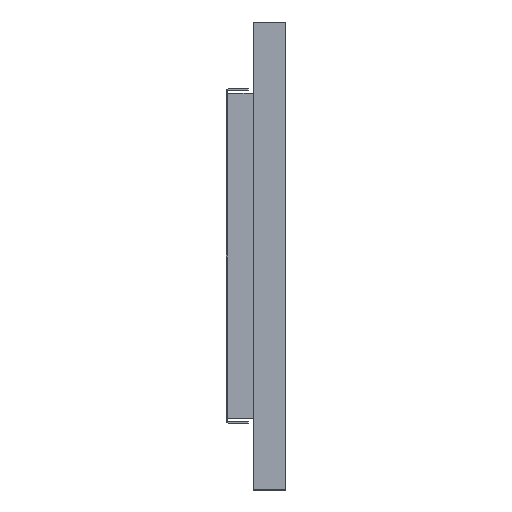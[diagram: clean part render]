
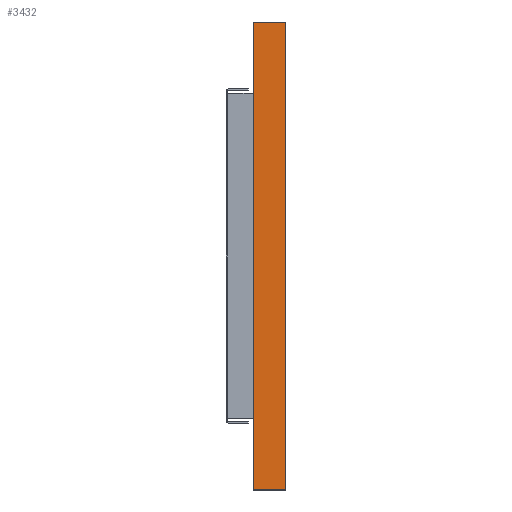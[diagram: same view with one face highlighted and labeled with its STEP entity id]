
A CAD part, left-side view. The second image highlights one B-rep face of the part: STEP entity #3432.
In plain terms, the highlighted planar face has unit normal (-1, 0, 0).
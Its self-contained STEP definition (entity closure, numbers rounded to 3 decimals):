
#137 = CARTESIAN_POINT ( 'NONE',  ( -258.592, -7.233, 36. ) ) ;
#146 = FACE_OUTER_BOUND ( 'NONE', #2312, .T. ) ;
#273 = LINE ( 'NONE', #4864, #975 ) ;
#284 = CARTESIAN_POINT ( 'NONE',  ( -258.592, -7.233, -36. ) ) ;
#364 = VERTEX_POINT ( 'NONE', #137 ) ;
#372 = CARTESIAN_POINT ( 'NONE',  ( -258.592, -12.233, -36. ) ) ;
#533 = EDGE_CURVE ( 'NONE', #4104, #1780, #1138, .T. ) ;
#571 = DIRECTION ( 'NONE',  ( 0., 0., -1. ) ) ;
#621 = LINE ( 'NONE', #2897, #2165 ) ;
#975 = VECTOR ( 'NONE', #3668, 1000. ) ;
#1138 = LINE ( 'NONE', #284, #4809 ) ;
#1289 = CARTESIAN_POINT ( 'NONE',  ( -258.592, -7.233, -36. ) ) ;
#1347 = EDGE_CURVE ( 'NONE', #364, #4384, #621, .T. ) ;
#1780 = VERTEX_POINT ( 'NONE', #2894 ) ;
#1801 = DIRECTION ( 'NONE',  ( 0., -1., 0. ) ) ;
#1806 = LINE ( 'NONE', #372, #3460 ) ;
#2040 = ORIENTED_EDGE ( 'NONE', *, *, #4823, .F. ) ;
#2165 = VECTOR ( 'NONE', #4422, 1000. ) ;
#2312 = EDGE_LOOP ( 'NONE', ( #3163, #4506, #2040, #4169 ) ) ;
#2541 = EDGE_CURVE ( 'NONE', #1780, #4384, #1806, .T. ) ;
#2641 = CARTESIAN_POINT ( 'NONE',  ( -258.592, -12.233, 36. ) ) ;
#2849 = PLANE ( 'NONE',  #3240 ) ;
#2894 = CARTESIAN_POINT ( 'NONE',  ( -258.592, -12.233, -36. ) ) ;
#2897 = CARTESIAN_POINT ( 'NONE',  ( -258.592, -7.233, 36. ) ) ;
#3163 = ORIENTED_EDGE ( 'NONE', *, *, #2541, .T. ) ;
#3240 = AXIS2_PLACEMENT_3D ( 'NONE', #1289, #3594, #571 ) ;
#3328 = CARTESIAN_POINT ( 'NONE',  ( -258.592, -7.233, -36. ) ) ;
#3432 = ADVANCED_FACE ( 'NONE', ( #146 ), #2849, .F. ) ;
#3460 = VECTOR ( 'NONE', #4446, 1000. ) ;
#3594 = DIRECTION ( 'NONE',  ( 1., 0., 0. ) ) ;
#3668 = DIRECTION ( 'NONE',  ( 0., 0., 1. ) ) ;
#4104 = VERTEX_POINT ( 'NONE', #3328 ) ;
#4169 = ORIENTED_EDGE ( 'NONE', *, *, #533, .T. ) ;
#4384 = VERTEX_POINT ( 'NONE', #2641 ) ;
#4422 = DIRECTION ( 'NONE',  ( 0., -1., 0. ) ) ;
#4446 = DIRECTION ( 'NONE',  ( 0., 0., 1. ) ) ;
#4506 = ORIENTED_EDGE ( 'NONE', *, *, #1347, .F. ) ;
#4809 = VECTOR ( 'NONE', #1801, 1000. ) ;
#4823 = EDGE_CURVE ( 'NONE', #4104, #364, #273, .T. ) ;
#4864 = CARTESIAN_POINT ( 'NONE',  ( -258.592, -7.233, -36. ) ) ;
